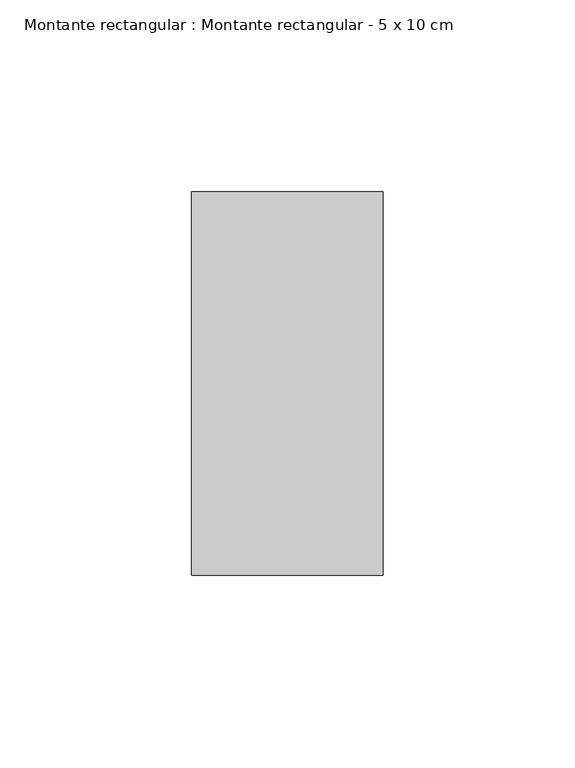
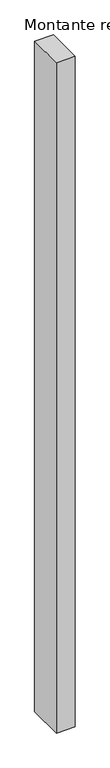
"""IFC4 building model written with IfcOpenShell, lengths in millimetres: member geometry, Montante rectangular : Montante rectangular - 5 x 10 cm."""

import ifcopenshell
import ifcopenshell.guid

model = None  # the IFC model being written
_history = None  # IfcOwnerHistory: only IFC2X3 demands one
_inside = {}  # id of a spatial element -> (the spatial element, [elements in it])
_under = {}  # id of a project, library or spatial element -> (it, [spatial elements below it])
_declared = {}  # id of a project -> (the project, [libraries it declares])
_typed = {}  # id of a type object -> (the type object, [elements of that type])
_made_of = {}  # id of a material, layer set ... -> (it, [elements and type objects made of it])


def new_model(schema):
    """Start an empty IFC model of exactly this schema.

    Asked for "IFC4X3", IfcOpenShell would pick the latest addendum, in which some entities
    have other attributes; the version numbers below select the first issue.
    IFC2X3 requires an IfcOwnerHistory on every rooted entity: one is made here for all.
    """
    global model, _history
    if schema == "IFC4X3":
        model = ifcopenshell.file(schema_version=(4, 3, 0, 0))
    else:
        model = ifcopenshell.file(schema=schema)
    _inside.clear()
    _under.clear()
    _declared.clear()
    _typed.clear()
    _made_of.clear()
    _history = None
    if model.schema == "IFC2X3":
        org = make("IfcOrganization", Name="unknown")
        user = make(
            "IfcPersonAndOrganization",
            ThePerson=make("IfcPerson", FamilyName="unknown"),
            TheOrganization=org,
        )
        app = make(
            "IfcApplication",
            ApplicationDeveloper=org,
            Version="unknown",
            ApplicationFullName="unknown",
            ApplicationIdentifier="unknown",
        )
        _history = make(
            "IfcOwnerHistory",
            OwningUser=user,
            OwningApplication=app,
            ChangeAction="ADDED",
            CreationDate=0,
        )
    return model


def make(cls, **values):
    """One entity of the class cls with the attributes given. An attribute that is None is left unset."""
    return model.create_entity(
        cls, **{name: value for name, value in values.items() if value is not None}
    )


def rooted(cls, **values):
    """An entity with a GlobalId (a new one), such as an element, a storey or a relation."""
    return make(cls, GlobalId=ifcopenshell.guid.new(), OwnerHistory=_history, **values)


def si_unit(unit_type, name, prefix=None):
    """IfcSIUnit, for example si_unit("LENGTHUNIT", "METRE", prefix="MILLI")."""
    return make("IfcSIUnit", UnitType=unit_type, Prefix=prefix, Name=name)


def assignment(units):
    """IfcUnitAssignment: the units of a project."""
    return None if units is None else make("IfcUnitAssignment", Units=units)


def point(xyz):
    """IfcCartesianPoint."""
    return None if xyz is None else make("IfcCartesianPoint", Coordinates=xyz)


def direction(xyz):
    """IfcDirection."""
    return None if xyz is None else make("IfcDirection", DirectionRatios=xyz)


def frame(location, z_axis=None, x_axis=None):
    """IfcAxis2Placement3D, a coordinate frame: its origin and axes. An axis left out is left unset."""
    return make(
        "IfcAxis2Placement3D",
        Location=point(location),
        Axis=direction(z_axis),
        RefDirection=direction(x_axis),
    )


def origin():
    """The frame at (0, 0, 0) with its axes left unset."""
    return frame((0.0, 0.0, 0.0))


def place(relative_to, where):
    """IfcLocalPlacement: puts the frame where relative to a parent placement (None: the world)."""
    return make(
        "IfcLocalPlacement", PlacementRelTo=relative_to, RelativePlacement=where
    )


def context(
    kind, dimensions, precision=None, world=None, true_north=None, identifier=None
):
    """IfcGeometricRepresentationContext, for example the 3D "Model" context."""
    return make(
        "IfcGeometricRepresentationContext",
        ContextIdentifier=identifier,
        ContextType=kind,
        CoordinateSpaceDimension=dimensions,
        Precision=precision,
        WorldCoordinateSystem=world,
        TrueNorth=true_north,
    )


def project(units=None, contexts=None):
    """IfcProject with its units and contexts."""
    return rooted(
        "IfcProject",
        Name="project",
        RepresentationContexts=contexts,
        UnitsInContext=assignment(units),
    )


def spatial(cls, under=None, at=None, **own):
    """A site, building, storey or space (cls), placed at a placement, below another one or the project."""
    s = rooted(cls, ObjectPlacement=at, **own)
    if under is not None:
        _under.setdefault(under.id(), (under, []))[1].append(s)
    return s


def polyline(points):
    """IfcPolyline through the points."""
    return make("IfcPolyline", Points=[point(p) for p in points])


def outline(outer, holes=None, kind="AREA"):
    """IfcArbitraryClosedProfileDef: a profile drawn as a closed curve; with holes, ...WithVoids."""
    if holes is None:
        return make("IfcArbitraryClosedProfileDef", ProfileType=kind, OuterCurve=outer)
    return make(
        "IfcArbitraryProfileDefWithVoids",
        ProfileType=kind,
        OuterCurve=outer,
        InnerCurves=holes,
    )


def extrude(swept, where, along, depth):
    """IfcExtrudedAreaSolid: the profile swept, set in the frame where, extruded along a direction by depth."""
    return make(
        "IfcExtrudedAreaSolid",
        SweptArea=swept,
        Position=where,
        ExtrudedDirection=direction(along),
        Depth=depth,
    )


def shape(context_of_items, identifier, shape_type, items):
    """IfcShapeRepresentation: the items that make up one representation, for example the "Body"."""
    return make(
        "IfcShapeRepresentation",
        ContextOfItems=context_of_items,
        RepresentationIdentifier=identifier,
        RepresentationType=shape_type,
        Items=items,
    )


def source(mapping_origin, context_of_items, identifier, shape_type, items):
    """IfcRepresentationMap: a shape defined once, which mapped items show again and again."""
    return make(
        "IfcRepresentationMap",
        MappingOrigin=mapping_origin,
        MappedRepresentation=shape(context_of_items, identifier, shape_type, items),
    )


def transform(
    local_origin,
    x_axis=None,
    y_axis=None,
    z_axis=None,
    scale=None,
    scale2=None,
    scale3=None,
    uniform=True,
):
    """IfcCartesianTransformationOperator3D, or its non-uniform kind. x_axis, y_axis, z_axis: its Axis1, 2, 3."""
    if uniform:
        return make(
            "IfcCartesianTransformationOperator3D",
            Axis1=direction(x_axis),
            Axis2=direction(y_axis),
            LocalOrigin=point(local_origin),
            Scale=scale,
            Axis3=direction(z_axis),
        )
    return make(
        "IfcCartesianTransformationOperator3DnonUniform",
        Axis1=direction(x_axis),
        Axis2=direction(y_axis),
        LocalOrigin=point(local_origin),
        Scale=scale,
        Axis3=direction(z_axis),
        Scale2=scale2,
        Scale3=scale3,
    )


def mapped(mapping_source, mapping_target):
    """IfcMappedItem: shows the shape of a source again, moved by a transform."""
    return make(
        "IfcMappedItem", MappingSource=mapping_source, MappingTarget=mapping_target
    )


def made_of(thing, what):
    """Note that an element or type object is made of a material, layer set ...; save() writes the relation."""
    if what is not None:
        _made_of.setdefault(what.id(), (what, []))[1].append(thing)
    return thing


def element(
    cls,
    number,
    at=None,
    inside=None,
    cuts=None,
    type_object=None,
    material=None,
    context=None,
    identifier="Body",
    shape_type=None,
    held_by="IfcProductDefinitionShape",
    body=None,
    shapes=None,
    **own,
):
    """One element of the class cls, such as IfcWall. Its Tag is "e" and its number.

    at: its placement. inside: the storey or other place that contains it. cuts: it is an
    opening in that element (IfcRelVoidsElement). A single representation is given by context,
    identifier, shape_type and body (its items); several are given by shapes. held_by: the class
    of the entity that holds the representations. save() writes the other relations.
    """
    e = rooted(cls, Tag="e%d" % number, ObjectPlacement=at, **own)
    if body is not None:
        shapes = [shape(context, identifier, shape_type, body)]
    if shapes is not None:
        e.Representation = make(held_by, Representations=shapes)
    if inside is not None:
        _inside.setdefault(inside.id(), (inside, []))[1].append(e)
    if cuts is not None:
        rooted(
            "IfcRelVoidsElement", RelatingBuildingElement=cuts, RelatedOpeningElement=e
        )
    if type_object is not None:
        _typed.setdefault(type_object.id(), (type_object, []))[1].append(e)
    return made_of(e, material)


def aggregate(whole, parts):
    """IfcRelAggregates: a whole, such as a stair, and the parts it consists of."""
    return rooted("IfcRelAggregates", RelatingObject=whole, RelatedObjects=parts)


def save(model, path):
    """Write the relations noted so far, then the file.

    IfcRelAggregates (storeys below a building ...), IfcRelContainedInSpatialStructure (elements
    in a storey), IfcRelDefinesByType, IfcRelAssociatesMaterial and IfcRelDeclares: one each for
    every whole, place, type object, material and project.
    """
    for whole, parts in _under.values():
        aggregate(whole, parts)
    for where, things in _inside.values():
        rooted(
            "IfcRelContainedInSpatialStructure",
            RelatedElements=things,
            RelatingStructure=where,
        )
    for kind, things in _typed.values():
        rooted("IfcRelDefinesByType", RelatedObjects=things, RelatingType=kind)
    for what, things in _made_of.values():
        rooted("IfcRelAssociatesMaterial", RelatedObjects=things, RelatingMaterial=what)
    for by, libraries in _declared.values():
        rooted("IfcRelDeclares", RelatingContext=by, RelatedDefinitions=libraries)
    model.write(path)


def montante_rectangular_montante_rectangular_5_x_10_cm_7e68ff5c(model_context):
    return source(origin(), model_context, "Body", "SweptSolid", [
        extrude(outline(polyline([(25.0, 50.0), (25.0, -50.0), (-25.0, -50.0), (-25.0, 50.0), (25.0, 50.0)])), frame((0.0, 0.0, -1894.8845046), z_axis=(0.0, 0.0, 1.0), x_axis=(1.0, 0.0, 0.0)), (0.0, 0.0, 1.0), 1894.8845046),
    ])


if __name__ == "__main__":
    model = new_model("IFC4")
    model_context = context("Model", 3, world=origin())
    ifc_project = project(units=[si_unit("LENGTHUNIT", "METRE", prefix="MILLI")], contexts=[model_context])
    site = spatial("IfcSite", under=ifc_project)
    building = spatial("IfcBuilding", under=site)
    placement = place(None, origin())
    montante_rectangular_montante_rectangular_5_x_10_cm_shape = montante_rectangular_montante_rectangular_5_x_10_cm_7e68ff5c(model_context)
    element("IfcMember", 1, ObjectType="Montante rectangular : Montante rectangular - 5 x 10 cm", at=placement, inside=building, context=model_context, shape_type="MappedRepresentation", body=[
        mapped(montante_rectangular_montante_rectangular_5_x_10_cm_shape, transform((0.0, 0.0, 0.0), x_axis=(1.0, 0.0, 0.0), y_axis=(0.0, 1.0, 0.0), z_axis=(0.0, 0.0, 1.0))),
    ])
    save(model, "model.ifc")
